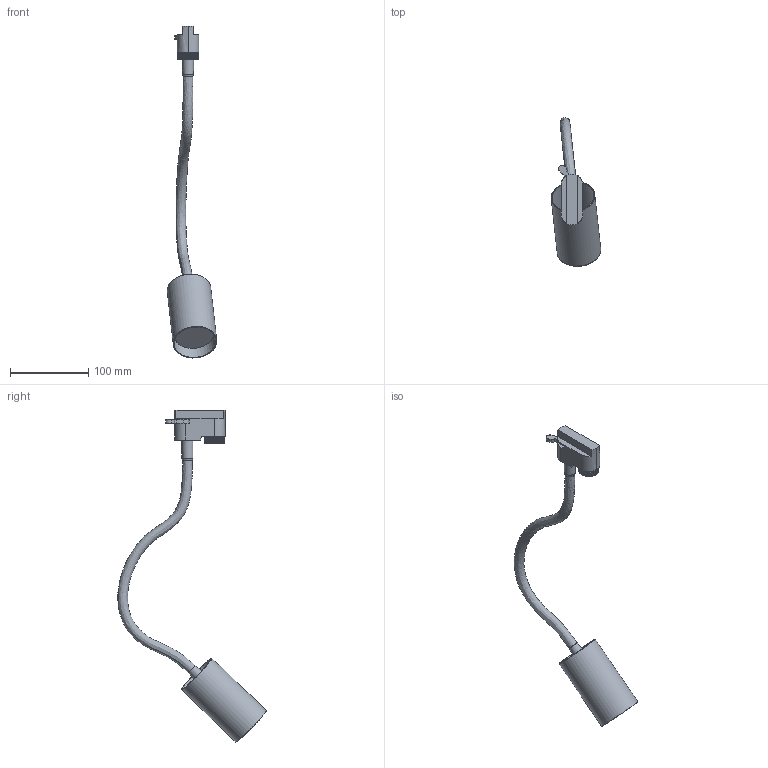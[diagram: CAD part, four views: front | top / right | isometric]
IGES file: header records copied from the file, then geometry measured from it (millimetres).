
Start section: SolidWorks IGES file using NURBS representation for surfaces
Global section: file name: Z:\Modele 3D_WWW\_KOLEKCJE WWW\PROFILE SYSTEM\PROFILE-EYE-FLEX-9332\PROFILE-EYE-FLEX-9332.IGS; native system: SolidWorks 2021; preprocessor: SolidWorks 2021; author: gabriela.tworek; date: 220214.080300; units: millimetre
Bounding box: 63.38 x 189.87 x 424.86 mm (x, y, z)
Surface area: 66575.3 mm2 (no closed solid volume)
Topology: 0 solids, 0 shells, 170 faces, 972 edges, 963 vertices
Faces by surface type: bspline 170
